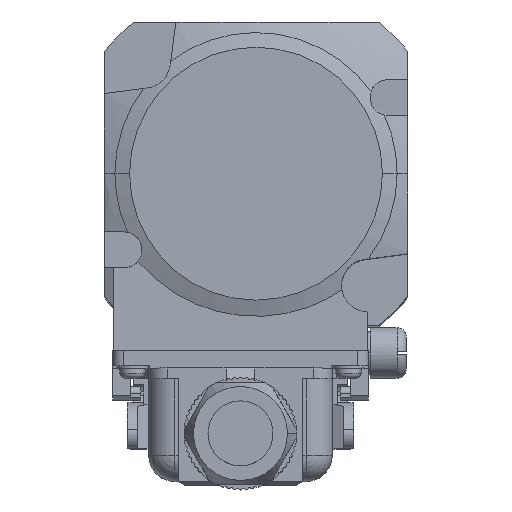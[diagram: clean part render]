
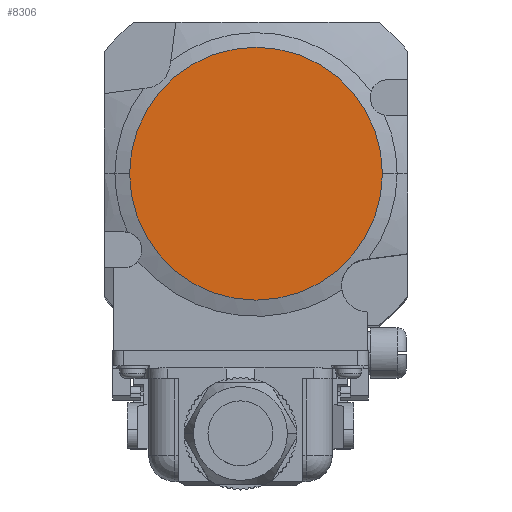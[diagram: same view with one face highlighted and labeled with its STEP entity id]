
A CAD part, top view. The second image highlights one B-rep face of the part: STEP entity #8306.
In plain terms, the highlighted planar face has unit normal (0, 0, 1).
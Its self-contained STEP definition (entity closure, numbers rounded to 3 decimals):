
#343 = CARTESIAN_POINT ( 'NONE',  ( 17.5, 0., 107. ) ) ;
#1305 = AXIS2_PLACEMENT_3D ( 'NONE', #13106, #2735, #7099 ) ;
#1379 = VERTEX_POINT ( 'NONE', #343 ) ;
#2141 = DIRECTION ( 'NONE',  ( 1., 0., 0. ) ) ;
#2735 = DIRECTION ( 'NONE',  ( 0., 0., 1. ) ) ;
#3452 = DIRECTION ( 'NONE',  ( 0., 0., 1. ) ) ;
#4575 = PLANE ( 'NONE',  #1305 ) ;
#6106 = ORIENTED_EDGE ( 'NONE', *, *, #15724, .T. ) ;
#7099 = DIRECTION ( 'NONE',  ( 1., 0., 0. ) ) ;
#7997 = CARTESIAN_POINT ( 'NONE',  ( 0., 0., 107. ) ) ;
#8021 = EDGE_LOOP ( 'NONE', ( #17659, #6106 ) ) ;
#8306 = ADVANCED_FACE ( 'NONE', ( #11945 ), #4575, .T. ) ;
#8938 = AXIS2_PLACEMENT_3D ( 'NONE', #7997, #3452, #13910 ) ;
#8964 = CIRCLE ( 'NONE', #12985, 17.5 ) ;
#10515 = VERTEX_POINT ( 'NONE', #11767 ) ;
#11208 = EDGE_CURVE ( 'NONE', #10515, #1379, #8964, .T. ) ;
#11767 = CARTESIAN_POINT ( 'NONE',  ( -17.5, 0., 107. ) ) ;
#11945 = FACE_OUTER_BOUND ( 'NONE', #8021, .T. ) ;
#12790 = CARTESIAN_POINT ( 'NONE',  ( 0., 0., 107. ) ) ;
#12985 = AXIS2_PLACEMENT_3D ( 'NONE', #12790, #18293, #2141 ) ;
#13106 = CARTESIAN_POINT ( 'NONE',  ( 0., 0., 107. ) ) ;
#13276 = CIRCLE ( 'NONE', #8938, 17.5 ) ;
#13910 = DIRECTION ( 'NONE',  ( 1., 0., 0. ) ) ;
#15724 = EDGE_CURVE ( 'NONE', #1379, #10515, #13276, .T. ) ;
#17659 = ORIENTED_EDGE ( 'NONE', *, *, #11208, .T. ) ;
#18293 = DIRECTION ( 'NONE',  ( 0., 0., 1. ) ) ;
